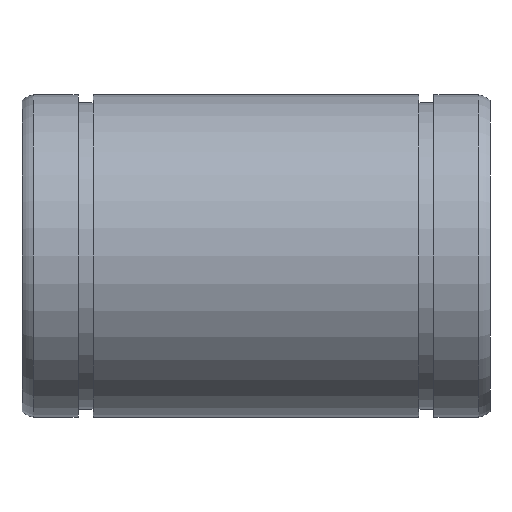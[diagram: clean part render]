
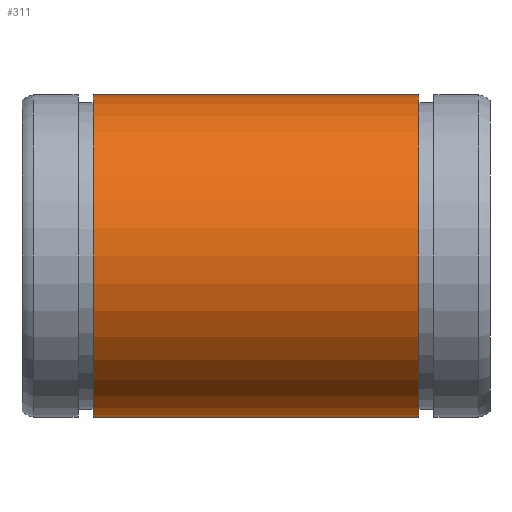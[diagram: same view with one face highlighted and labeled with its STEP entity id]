
A CAD part, front view. The second image highlights one B-rep face of the part: STEP entity #311.
In plain terms, the highlighted cylindrical face has radius 20 mm (diameter 40 mm), a full revolution.
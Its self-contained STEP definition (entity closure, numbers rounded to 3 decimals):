
#277=CARTESIAN_POINT('',(49.2,0.0,20.));
#278=VERTEX_POINT('',#277);
#279=CARTESIAN_POINT('',(49.2,0.0,0.));
#280=DIRECTION('',(-1.0,0.0,0.0));
#281=DIRECTION('',(0.0,0.0,1.0));
#282=AXIS2_PLACEMENT_3D('',#279,#280,#281);
#283=CIRCLE('',#282,20.);
#284=EDGE_CURVE('',#278,#278,#283,.T.);
#292=CARTESIAN_POINT('',(29.,0.0,0.));
#293=DIRECTION('',(-1.0,0.0,0.0));
#294=DIRECTION('',(0.0,0.0,1.0));
#295=AXIS2_PLACEMENT_3D('',#292,#293,#294);
#296=CYLINDRICAL_SURFACE('',#295,20.);
#297=CARTESIAN_POINT('',(8.8,0.0,20.0));
#298=VERTEX_POINT('',#297);
#299=CARTESIAN_POINT('',(8.8,0.0,0.));
#300=DIRECTION('',(-1.0,0.0,0.0));
#301=DIRECTION('',(0.0,0.0,1.0));
#302=AXIS2_PLACEMENT_3D('',#299,#300,#301);
#303=CIRCLE('',#302,20.);
#304=EDGE_CURVE('',#298,#298,#303,.T.);
#305=ORIENTED_EDGE('',*,*,#304,.F.);
#306=EDGE_LOOP('',(#305));
#307=FACE_OUTER_BOUND('',#306,.T.);
#308=ORIENTED_EDGE('',*,*,#284,.T.);
#309=EDGE_LOOP('',(#308));
#310=FACE_BOUND('',#309,.T.);
#311=ADVANCED_FACE('',(#307,#310),#296,.T.);
